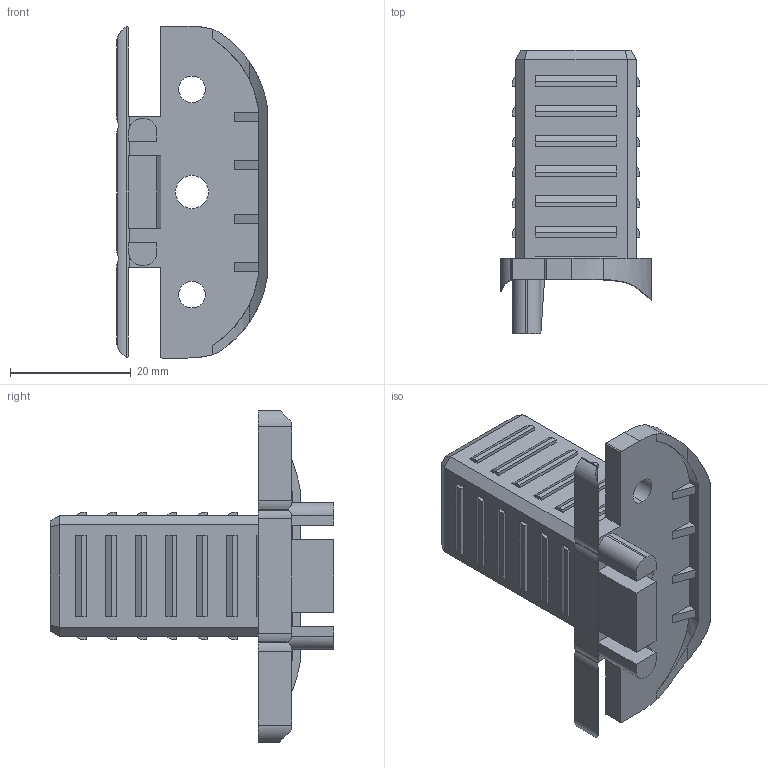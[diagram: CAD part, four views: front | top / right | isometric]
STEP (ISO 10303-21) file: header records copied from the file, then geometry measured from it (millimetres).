
FILE_DESCRIPTION (( 'STEP AP214' ), '1' );
FILE_NAME ('013.025.109.STEP', '2021-07-20T11:38:13', ( '' ), ( '' ), 'SwSTEP 2.0', 'SolidWorks 2018', '' );
FILE_SCHEMA (( 'AUTOMOTIVE_DESIGN' ));
Length unit declared in the file: millimetre
Products named in the file (1): 013.025.109
Bounding box: 25 x 47 x 55 mm (x, y, z)
Volume: 11528.2 mm3; surface area: 9412.8 mm2
Topology: 1 solids, 1 shells, 290 faces, 767 edges, 506 vertices
Faces by surface type: plane 236, cylinder 50, bspline 4
Entity records: 9031 total; most frequent: CARTESIAN_POINT 1773, ORIENTED_EDGE 1534, DIRECTION 1402, EDGE_CURVE 767, VECTOR 646, LINE 646, VERTEX_POINT 506, AXIS2_PLACEMENT_3D 378
